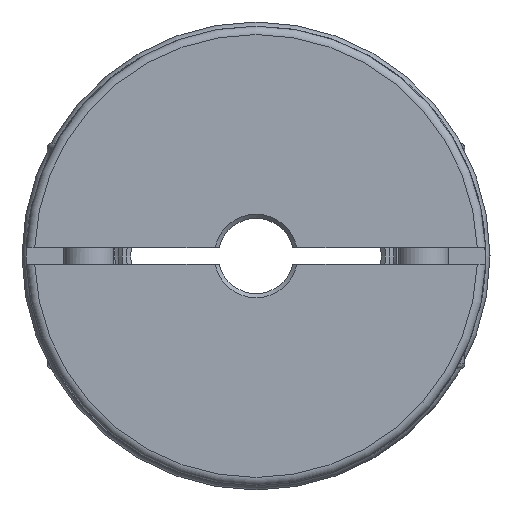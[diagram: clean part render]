
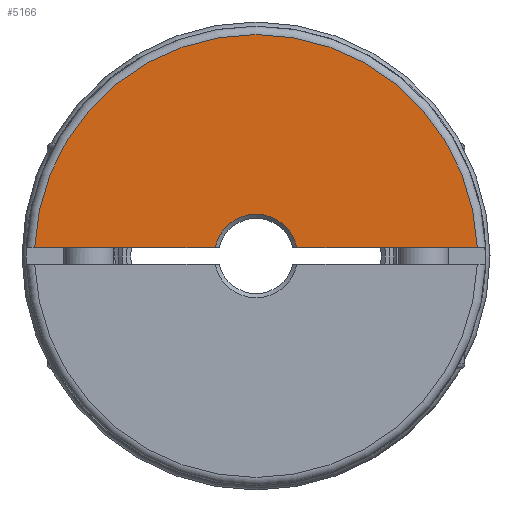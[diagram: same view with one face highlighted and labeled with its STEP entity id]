
A CAD part, left-side view. The second image highlights one B-rep face of the part: STEP entity #5166.
In plain terms, the highlighted planar face has unit normal (-1, 0, 0).
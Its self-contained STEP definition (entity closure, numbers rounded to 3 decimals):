
#62=LINE('',#7377,#206);
#66=LINE('',#7402,#210);
#206=VECTOR('',#6216,1000.);
#210=VECTOR('',#6222,1000.);
#750=ORIENTED_EDGE('',*,*,#1497,.T.);
#751=ORIENTED_EDGE('',*,*,#1498,.T.);
#752=ORIENTED_EDGE('',*,*,#1490,.F.);
#753=ORIENTED_EDGE('',*,*,#1499,.F.);
#1490=EDGE_CURVE('',#1897,#1898,#62,.T.);
#1497=EDGE_CURVE('',#1904,#1905,#66,.T.);
#1498=EDGE_CURVE('',#1905,#1898,#2199,.T.);
#1499=EDGE_CURVE('',#1904,#1897,#2200,.T.);
#1897=VERTEX_POINT('',#7378);
#1898=VERTEX_POINT('',#7379);
#1904=VERTEX_POINT('',#7403);
#1905=VERTEX_POINT('',#7404);
#2199=CIRCLE('',#5507,5.);
#2200=CIRCLE('',#5508,26.5);
#2503=EDGE_LOOP('',(#750,#751,#752,#753));
#2913=FACE_BOUND('',#2503,.T.);
#3221=PLANE('',#5506);
#5166=ADVANCED_FACE('',(#2913),#3221,.F.);
#5506=AXIS2_PLACEMENT_3D('',#7401,#6220,#6221);
#5507=AXIS2_PLACEMENT_3D('',#7405,#6223,#6224);
#5508=AXIS2_PLACEMENT_3D('',#7406,#6225,#6226);
#6216=DIRECTION('',(0.,1.,0.));
#6220=DIRECTION('',(1.,0.,0.));
#6221=DIRECTION('',(0.,-1.,0.));
#6222=DIRECTION('',(0.,-1.,0.));
#6223=DIRECTION('',(1.,0.,0.));
#6224=DIRECTION('',(0.,-1.,0.));
#6225=DIRECTION('',(1.,0.,0.));
#6226=DIRECTION('',(0.,-1.,0.));
#7377=CARTESIAN_POINT('',(-16.948,27.5,1.));
#7378=CARTESIAN_POINT('',(-16.948,-26.481,1.));
#7379=CARTESIAN_POINT('',(-16.948,-4.899,1.));
#7401=CARTESIAN_POINT('',(-16.948,27.5,0.));
#7402=CARTESIAN_POINT('',(-16.948,27.5,1.));
#7403=CARTESIAN_POINT('',(-16.948,26.481,1.));
#7404=CARTESIAN_POINT('',(-16.948,4.899,1.));
#7405=CARTESIAN_POINT('',(-16.948,0.,0.));
#7406=CARTESIAN_POINT('',(-16.948,0.,0.));
